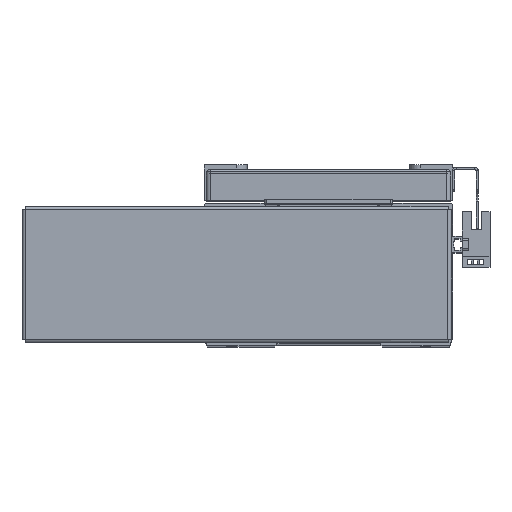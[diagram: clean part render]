
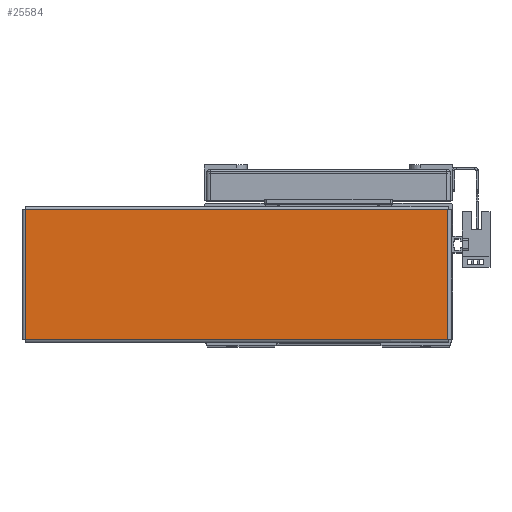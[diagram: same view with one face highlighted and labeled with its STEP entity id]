
A CAD part, top view. The second image highlights one B-rep face of the part: STEP entity #25584.
In plain terms, the highlighted planar face has unit normal (0, 0, 1) as drawn and (0, -1, 0) by its records, which use the part's own axes.
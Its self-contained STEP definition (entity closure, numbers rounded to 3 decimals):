
#167 = EDGE_LOOP ( 'NONE', ( #8885, #8920, #8890, #8883 ) ) ;
#8883 = ORIENTED_EDGE ( 'NONE', *, *, #34312, .T. ) ;
#8885 = ORIENTED_EDGE ( 'NONE', *, *, #31669, .T. ) ;
#8890 = ORIENTED_EDGE ( 'NONE', *, *, #31685, .T. ) ;
#8920 = ORIENTED_EDGE ( 'NONE', *, *, #31671, .T. ) ;
#12483 = CARTESIAN_POINT ( 'NONE',  ( 103.793, -1., 31.763 ) ) ;
#12500 = DIRECTION ( 'NONE',  ( -1., 0., 0. ) ) ;
#12519 = DIRECTION ( 'NONE',  ( 0., 0., -1. ) ) ;
#12525 = CARTESIAN_POINT ( 'NONE',  ( -103.763, -1., 31.793 ) ) ;
#12542 = DIRECTION ( 'NONE',  ( 1., 0., 0. ) ) ;
#12549 = CARTESIAN_POINT ( 'NONE',  ( -103.793, -1., -31.763 ) ) ;
#17316 = VECTOR ( 'NONE', #12500, 1000. ) ;
#17335 = LINE ( 'NONE', #12549, #17365 ) ;
#17352 = LINE ( 'NONE', #12525, #17354 ) ;
#17354 = VECTOR ( 'NONE', #12519, 1000. ) ;
#17365 = VECTOR ( 'NONE', #12542, 1000. ) ;
#17375 = LINE ( 'NONE', #12483, #17316 ) ;
#25584 = ADVANCED_FACE ( 'NONE', ( #44767 ), #47776, .F. ) ;
#25984 = VERTEX_POINT ( 'NONE', #39667 ) ;
#26000 = VERTEX_POINT ( 'NONE', #39706 ) ;
#26019 = VERTEX_POINT ( 'NONE', #39735 ) ;
#26035 = VERTEX_POINT ( 'NONE', #39772 ) ;
#31669 = EDGE_CURVE ( 'NONE', #26019, #25984, #17375, .T. ) ;
#31671 = EDGE_CURVE ( 'NONE', #25984, #26035, #17352, .T. ) ;
#31685 = EDGE_CURVE ( 'NONE', #26035, #26000, #17335, .T. ) ;
#34312 = EDGE_CURVE ( 'NONE', #26000, #26019, #51052, .T. ) ;
#39667 = CARTESIAN_POINT ( 'NONE',  ( -103.763, -1., 31.763 ) ) ;
#39706 = CARTESIAN_POINT ( 'NONE',  ( 103.763, -1., -31.763 ) ) ;
#39735 = CARTESIAN_POINT ( 'NONE',  ( 103.763, -1., 31.763 ) ) ;
#39772 = CARTESIAN_POINT ( 'NONE',  ( -103.763, -1., -31.763 ) ) ;
#44767 = FACE_OUTER_BOUND ( 'NONE', #167, .T. ) ;
#47733 = DIRECTION ( 'NONE',  ( 0., 0., 1. ) ) ;
#47776 = PLANE ( 'NONE',  #49665 ) ;
#47780 = CARTESIAN_POINT ( 'NONE',  ( 0., -1., 0. ) ) ;
#47790 = DIRECTION ( 'NONE',  ( 0., 1., 0. ) ) ;
#49665 = AXIS2_PLACEMENT_3D ( 'NONE', #47780, #47790, #47733 ) ;
#51000 = VECTOR ( 'NONE', #53075, 1000. ) ;
#51052 = LINE ( 'NONE', #53043, #51000 ) ;
#53043 = CARTESIAN_POINT ( 'NONE',  ( 103.763, -1., -31.793 ) ) ;
#53075 = DIRECTION ( 'NONE',  ( 0., 0., 1. ) ) ;
